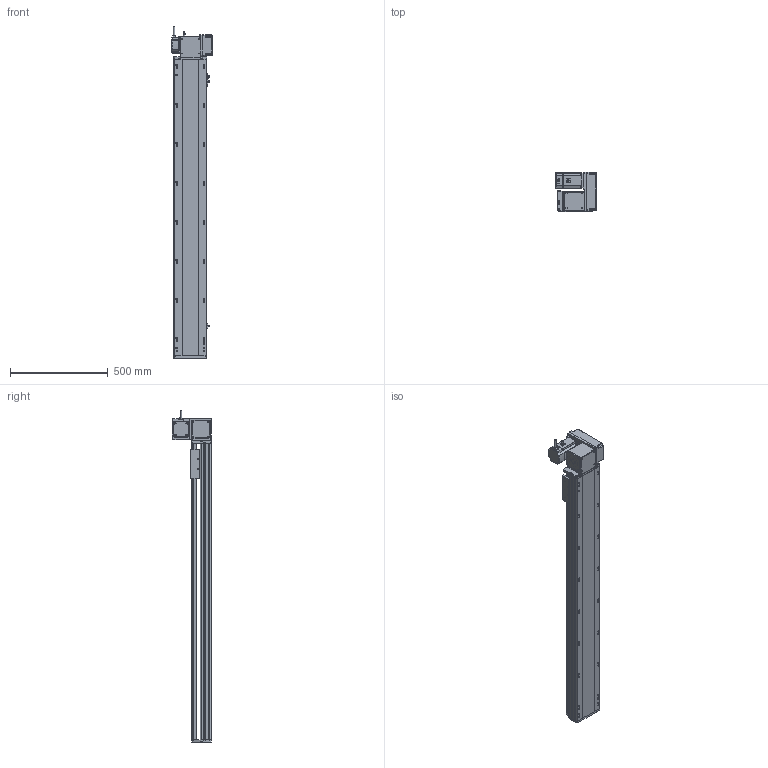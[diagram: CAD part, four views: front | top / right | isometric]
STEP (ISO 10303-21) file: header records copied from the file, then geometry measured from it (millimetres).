
FILE_DESCRIPTION (( 'STEP AP214' ), '1' );
FILE_NAME ('RTB17S-XX-1250-RW-M75-C4.STEP', '2025-12-12T02:37:37', ( '' ), ( '' ), 'SwSTEP 2.0', 'SolidWorks 2018', '' );
FILE_SCHEMA (( 'AUTOMOTIVE_DESIGN' ));
Length unit declared in the file: millimetre
Products named in the file (15): RTB17S-賑釱^RTB17S-XX-XX-RW-M75-C4; RTB17S-L-004-賑釱^RTB17S-賑釱_RTB17S-XX-XX-RW-M75-C4; RTB22S-GY-005P^RTB17S-RW-々湍釱蚾饜-750W_RTB17S-XX-XX-RW-M75-C4; 750W萇儂^RTB17S-XX-XX-RW-M75-C4; RTB17S-L-001-耜醱啣^RTB17S-XX-XX-RW-M75-C4; EE672^RTB17S-XX-XX-RW-M75-C4; RTB17S-XX-1250-RW-M75-C4; RTB17S-L-007奻裔^RTB17S-XX-XX-RW-M75-C4; RTB17S-RW-々湍釱蚾饜-750W^RTB17S-XX-XX-RW-M75-C4; RTB22S-GY-008-M75--萇儂啣^RTB17S-RW-々湍釱蚾饜-750W_RTB17S-XX-XX-RW-M75-C4; RTB22S-GY-018P^RTB17S-RW-々湍釱蚾饜-750W_RTB17S-XX-XX-RW-M75-C4; RTB22S-GY-017P^RTB17S-RW-々湍釱蚾饜-750W_RTB17S-XX-XX-RW-M75-C4; RMP17S-L-014-T20-P75--々湍釱^RTB17S-RW-々湍釱蚾饜-750W_RTB17S-XX-XX-RW-M75-C4; RTB17-R-011菁釱^RTB17S-XX-XX-RW-M75-C4; RTH13-BL-012覜茼え俋离^RTB17S-賑釱_RTB17S-XX-XX-RW-M75-C4
Assembly tree (17 placements, depth 3):
  RTB17S-XX-1250-RW-M75-C4
    RTB17-R-011菁釱^RTB17S-XX-XX-RW-M75-C4
    EE672^RTB17S-XX-XX-RW-M75-C4  x3
    RTB17S-L-001-耜醱啣^RTB17S-XX-XX-RW-M75-C4
    RTB17S-賑釱^RTB17S-XX-XX-RW-M75-C4
      RTB17S-L-004-賑釱^RTB17S-賑釱_RTB17S-XX-XX-RW-M75-C4
      RTH13-BL-012覜茼え俋离^RTB17S-賑釱_RTB17S-XX-XX-RW-M75-C4
    RTB17S-L-007奻裔^RTB17S-XX-XX-RW-M75-C4
    750W萇儂^RTB17S-XX-XX-RW-M75-C4
    RTB17S-RW-々湍釱蚾饜-750W^RTB17S-XX-XX-RW-M75-C4
      RMP17S-L-014-T20-P75--々湍釱^RTB17S-RW-々湍釱蚾饜-750W_RTB17S-XX-XX-RW-M75-C4
      RTB22S-GY-005P^RTB17S-RW-々湍釱蚾饜-750W_RTB17S-XX-XX-RW-M75-C4
      RTB22S-GY-017P^RTB17S-RW-々湍釱蚾饜-750W_RTB17S-XX-XX-RW-M75-C4  x2
      RTB22S-GY-008-M75--萇儂啣^RTB17S-RW-々湍釱蚾饜-750W_RTB17S-XX-XX-RW-M75-C4
      RTB22S-GY-018P^RTB17S-RW-々湍釱蚾饜-750W_RTB17S-XX-XX-RW-M75-C4
Bounding box: 207.4 x 201.5 x 1702.2 mm (x, y, z)
Volume: 13758686.6 mm3; surface area: 2379800 mm2
Topology: 17 solids, 17 shells, 2121 faces, 5890 edges, 3806 vertices
Faces by surface type: plane 974, cylinder 731, bspline 294, cone 110, sphere 8, torus 4
Entity records: 59638 total; most frequent: CARTESIAN_POINT 17554, ORIENTED_EDGE 8624, DIRECTION 8042, EDGE_CURVE 4312, AXIS2_PLACEMENT_3D 2826, VERTEX_POINT 2810, LINE 2390, VECTOR 2390
